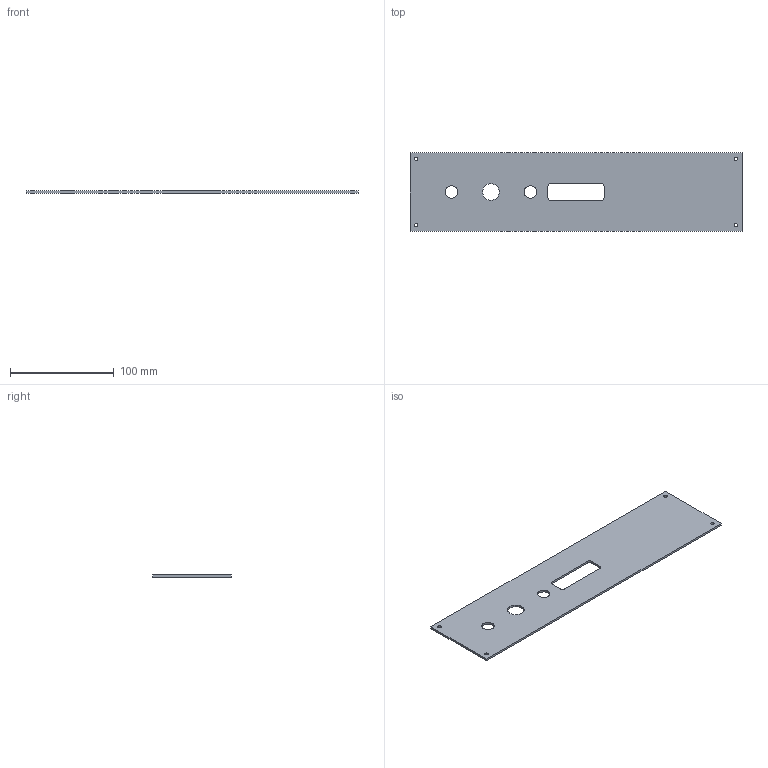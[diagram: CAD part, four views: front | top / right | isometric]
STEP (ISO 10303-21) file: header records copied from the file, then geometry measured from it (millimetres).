
FILE_DESCRIPTION(('Open CASCADE Model'),'2;1');
FILE_NAME('Open CASCADE Shape Model','2026-07-01T01:49:48',('Author'),( 'Open CASCADE'),'Open CASCADE STEP processor 7.9','Open CASCADE 7.9' ,'Unknown');
FILE_SCHEMA(('AUTOMOTIVE_DESIGN { 1 0 10303 214 1 1 1 1 }'));
Length unit declared in the file: millimetre
Products named in the file (1): Open CASCADE STEP translator 7.9 5
Bounding box: 320 x 76 x 2 mm (x, y, z)
Volume: 45901.1 mm3; surface area: 48090.4 mm2
Topology: 1 solids, 1 shells, 45 faces, 129 edges, 86 vertices
Faces by surface type: plane 38, cylinder 7
Full cylindrical faces by diameter (mm): 3.2 x4, 12 x2, 16 x1
Entity records: 3090 total; most frequent: CARTESIAN_POINT 731, DIRECTION 351, ORIENTED_EDGE 258, PCURVE 258, DEFINITIONAL_REPRESENTATION 258, LINE 231, VECTOR 231, EDGE_CURVE 129
